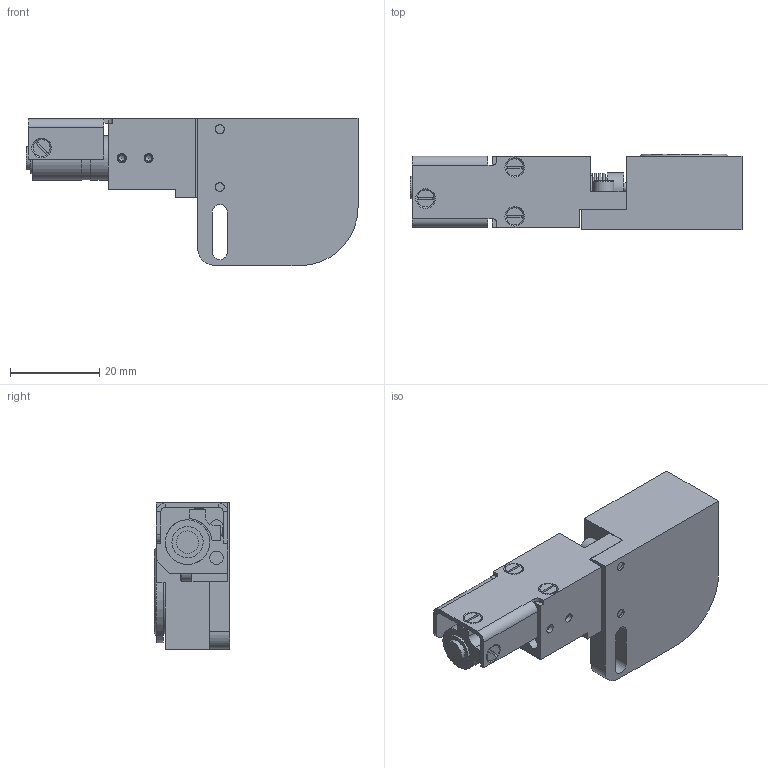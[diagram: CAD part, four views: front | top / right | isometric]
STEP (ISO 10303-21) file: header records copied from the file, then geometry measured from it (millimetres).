
FILE_DESCRIPTION(/* description */ (''),/* implementation_level */ '2;1');
FILE_NAME(/* name */ 'U:\KONSTRUKTORIAI\DOKUMENTACIJA\8\8MR20-F10\STEP\8MR20-F10 SB.stp',/* time_stamp */ '2020-01-10T07:20:55+02:00',/* author */ ('dsgn32'),/* organization */ (''),/* preprocessor_version */ 'ST-DEVELOPER v15.2',/* originating_system */ 'Autodesk Inventor 2014',/* authorisation */ '');
FILE_SCHEMA (('AUTOMOTIVE_DESIGN { 1 0 10303 214 3 1 1 }'));
Length unit declared in the file: millimetre
Products named in the file (1): 8MR20-F10 SB
Bounding box: 74.5 x 17 x 33 mm (x, y, z)
Volume: 22269.1 mm3; surface area: 9507.6 mm2
Topology: 1 solids, 12 shells, 640 faces, 1619 edges, 1050 vertices
Faces by surface type: plane 419, cylinder 129, bspline 56, cone 24, torus 12
Full cylindrical faces by diameter (mm): 1.567 x12, 2 x4, 2.013 x6, 2.5 x6, 2.9 x3, 3 x3, 4.5 x2, 5 x1, 6.5 x1, 7 x1, 9.8 x1, 10 x2, 19 x1, 23 x1
Entity records: 19489 total; most frequent: CARTESIAN_POINT 4214, ORIENTED_EDGE 2980, DIRECTION 2891, EDGE_CURVE 1488, VERTEX_POINT 998, AXIS2_PLACEMENT_3D 981, LINE 929, VECTOR 929
